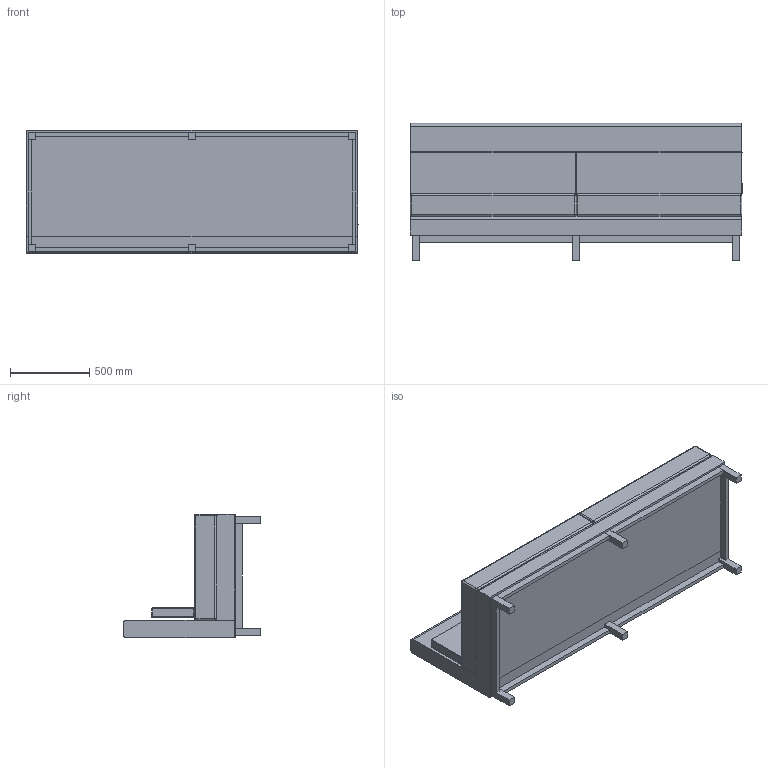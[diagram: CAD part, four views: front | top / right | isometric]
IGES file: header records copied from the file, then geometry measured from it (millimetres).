
Start section: SolidWorks IGES file using analytic representation for surfaces
Global section: file name: P:\3D CAD BLOCKS\ARTHUR CITYSCAPE\LB Plain Large Armless\IGS\ART-LB-PLAIN-LRG-ART-CITY-ARMLESS.IGS; native system: SolidWorks 2012; preprocessor: SolidWorks 2012; author: tom; date: 160523.093539; units: millimetre
Bounding box: 2100 x 868 x 780 mm (x, y, z)
Surface area: 13074730.7 mm2 (no closed solid volume)
Topology: 0 solids, 0 shells, 196 faces, 904 edges, 892 vertices
Faces by surface type: bspline 108, revolution 88
